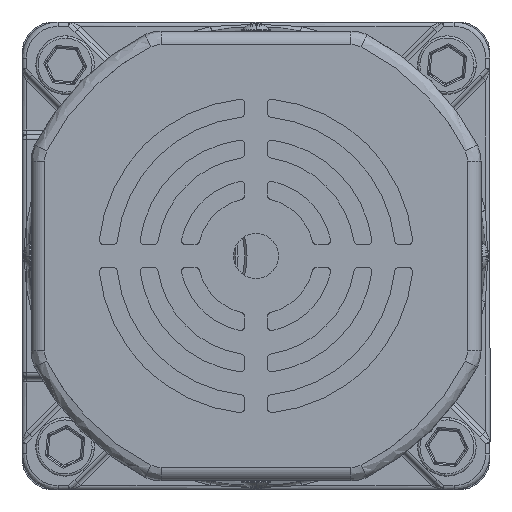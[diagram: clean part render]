
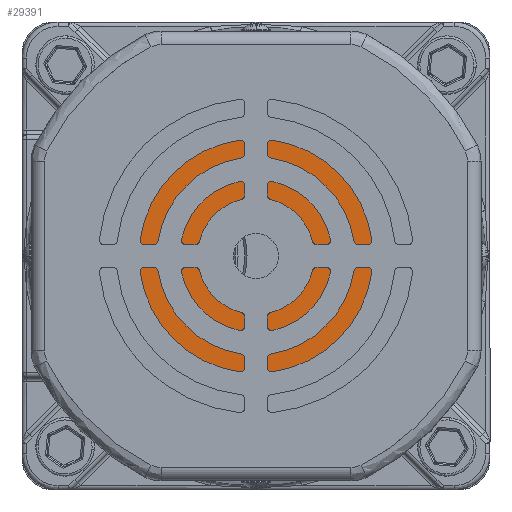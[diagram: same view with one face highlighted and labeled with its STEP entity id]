
A CAD part, front view. The second image highlights one B-rep face of the part: STEP entity #29391.
In plain terms, the highlighted planar face has unit normal (0, -1, 0).
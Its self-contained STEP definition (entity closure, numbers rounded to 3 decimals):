
#1194 = CIRCLE ( 'NONE', #13188, 9. ) ;
#2564 = ORIENTED_EDGE ( 'NONE', *, *, #16937, .F. ) ;
#3386 = CIRCLE ( 'NONE', #23951, 30. ) ;
#3425 = AXIS2_PLACEMENT_3D ( 'NONE', #17244, #54472, #22598 ) ;
#4089 = VERTEX_POINT ( 'NONE', #46856 ) ;
#5769 = EDGE_CURVE ( 'NONE', #27041, #8939, #28596, .T. ) ;
#5798 = FACE_BOUND ( 'NONE', #12513, .T. ) ;
#6098 = EDGE_CURVE ( 'NONE', #6915, #4089, #6104, .T. ) ;
#6104 = CIRCLE ( 'NONE', #3425, 30. ) ;
#6175 = ORIENTED_EDGE ( 'NONE', *, *, #66237, .F. ) ;
#6915 = VERTEX_POINT ( 'NONE', #44097 ) ;
#8939 = VERTEX_POINT ( 'NONE', #25404 ) ;
#12513 = EDGE_LOOP ( 'NONE', ( #68865, #45909 ) ) ;
#12612 = DIRECTION ( 'NONE',  ( 0., -1., 0. ) ) ;
#13188 = AXIS2_PLACEMENT_3D ( 'NONE', #57454, #25568, #62867 ) ;
#14204 = EDGE_CURVE ( 'NONE', #4089, #6915, #3386, .T. ) ;
#14625 = PLANE ( 'NONE',  #47663 ) ;
#14850 = DIRECTION ( 'NONE',  ( 0., 1., 0. ) ) ;
#14883 = EDGE_LOOP ( 'NONE', ( #15249, #60907 ) ) ;
#15249 = ORIENTED_EDGE ( 'NONE', *, *, #6098, .T. ) ;
#16937 = EDGE_CURVE ( 'NONE', #32679, #22228, #34671, .T. ) ;
#17244 = CARTESIAN_POINT ( 'NONE',  ( 0., -129., 0. ) ) ;
#17691 = DIRECTION ( 'NONE',  ( 0., -1., 0. ) ) ;
#18353 = CARTESIAN_POINT ( 'NONE',  ( 0., -129., 9. ) ) ;
#19922 = FACE_BOUND ( 'NONE', #69026, .T. ) ;
#21014 = CIRCLE ( 'NONE', #37651, 1.729 ) ;
#21834 = EDGE_CURVE ( 'NONE', #8939, #27041, #21014, .T. ) ;
#22228 = VERTEX_POINT ( 'NONE', #53454 ) ;
#22285 = CARTESIAN_POINT ( 'NONE',  ( 0., -129., -27. ) ) ;
#22598 = DIRECTION ( 'NONE',  ( 0., 0., -1. ) ) ;
#23951 = AXIS2_PLACEMENT_3D ( 'NONE', #49569, #17691, #54883 ) ;
#25404 = CARTESIAN_POINT ( 'NONE',  ( 0., -129., 25.271 ) ) ;
#25568 = DIRECTION ( 'NONE',  ( 0., -1., 0. ) ) ;
#27041 = VERTEX_POINT ( 'NONE', #48597 ) ;
#27608 = DIRECTION ( 'NONE',  ( 0., 0., -1. ) ) ;
#27633 = CARTESIAN_POINT ( 'NONE',  ( 0., -129., 27. ) ) ;
#28055 = CARTESIAN_POINT ( 'NONE',  ( 0., -129., -27. ) ) ;
#28273 = AXIS2_PLACEMENT_3D ( 'NONE', #44486, #12612, #49820 ) ;
#28596 = CIRCLE ( 'NONE', #57324, 1.729 ) ;
#29354 = CARTESIAN_POINT ( 'NONE',  ( 0., -129., 27. ) ) ;
#29391 = ADVANCED_FACE ( 'NONE', ( #19922, #48238, #5798, #60733 ), #14625, .F. ) ;
#30038 = CARTESIAN_POINT ( 'NONE',  ( 0., -129., -25.271 ) ) ;
#31794 = VERTEX_POINT ( 'NONE', #18353 ) ;
#32679 = VERTEX_POINT ( 'NONE', #30038 ) ;
#33007 = DIRECTION ( 'NONE',  ( 0., 0., -1. ) ) ;
#33423 = DIRECTION ( 'NONE',  ( 0., 0., -1. ) ) ;
#33635 = EDGE_CURVE ( 'NONE', #41123, #31794, #57939, .T. ) ;
#34671 = CIRCLE ( 'NONE', #67998, 1.729 ) ;
#34751 = DIRECTION ( 'NONE',  ( 0., 0., -1. ) ) ;
#37651 = AXIS2_PLACEMENT_3D ( 'NONE', #27633, #64942, #33007 ) ;
#40925 = EDGE_LOOP ( 'NONE', ( #58807, #48447 ) ) ;
#41123 = VERTEX_POINT ( 'NONE', #49857 ) ;
#44097 = CARTESIAN_POINT ( 'NONE',  ( 0., -129., -30. ) ) ;
#44486 = CARTESIAN_POINT ( 'NONE',  ( 0., -129., 0. ) ) ;
#45909 = ORIENTED_EDGE ( 'NONE', *, *, #5769, .F. ) ;
#46731 = CARTESIAN_POINT ( 'NONE',  ( 0., -129., 0. ) ) ;
#46856 = CARTESIAN_POINT ( 'NONE',  ( 0., -129., 30. ) ) ;
#47663 = AXIS2_PLACEMENT_3D ( 'NONE', #46731, #14850, #52106 ) ;
#48238 = FACE_BOUND ( 'NONE', #40925, .T. ) ;
#48447 = ORIENTED_EDGE ( 'NONE', *, *, #68835, .F. ) ;
#48597 = CARTESIAN_POINT ( 'NONE',  ( 0., -129., 28.729 ) ) ;
#48677 = AXIS2_PLACEMENT_3D ( 'NONE', #28055, #65369, #33423 ) ;
#49569 = CARTESIAN_POINT ( 'NONE',  ( 0., -129., 0. ) ) ;
#49820 = DIRECTION ( 'NONE',  ( 0., 0., -1. ) ) ;
#49857 = CARTESIAN_POINT ( 'NONE',  ( 0., -129., -9. ) ) ;
#52106 = DIRECTION ( 'NONE',  ( 0., 0., 1. ) ) ;
#53454 = CARTESIAN_POINT ( 'NONE',  ( 0., -129., -28.729 ) ) ;
#54472 = DIRECTION ( 'NONE',  ( 0., -1., 0. ) ) ;
#54883 = DIRECTION ( 'NONE',  ( 0., 0., -1. ) ) ;
#57324 = AXIS2_PLACEMENT_3D ( 'NONE', #29354, #66721, #34751 ) ;
#57454 = CARTESIAN_POINT ( 'NONE',  ( 0., -129., 0. ) ) ;
#57939 = CIRCLE ( 'NONE', #28273, 9. ) ;
#58807 = ORIENTED_EDGE ( 'NONE', *, *, #33635, .F. ) ;
#59534 = DIRECTION ( 'NONE',  ( 0., -1., 0. ) ) ;
#59985 = CIRCLE ( 'NONE', #48677, 1.729 ) ;
#60733 = FACE_OUTER_BOUND ( 'NONE', #14883, .T. ) ;
#60907 = ORIENTED_EDGE ( 'NONE', *, *, #14204, .T. ) ;
#62867 = DIRECTION ( 'NONE',  ( 0., 0., -1. ) ) ;
#64942 = DIRECTION ( 'NONE',  ( 0., -1., 0. ) ) ;
#65369 = DIRECTION ( 'NONE',  ( 0., -1., 0. ) ) ;
#66237 = EDGE_CURVE ( 'NONE', #22228, #32679, #59985, .T. ) ;
#66721 = DIRECTION ( 'NONE',  ( 0., -1., 0. ) ) ;
#67998 = AXIS2_PLACEMENT_3D ( 'NONE', #22285, #59534, #27608 ) ;
#68835 = EDGE_CURVE ( 'NONE', #31794, #41123, #1194, .T. ) ;
#68865 = ORIENTED_EDGE ( 'NONE', *, *, #21834, .F. ) ;
#69026 = EDGE_LOOP ( 'NONE', ( #6175, #2564 ) ) ;
